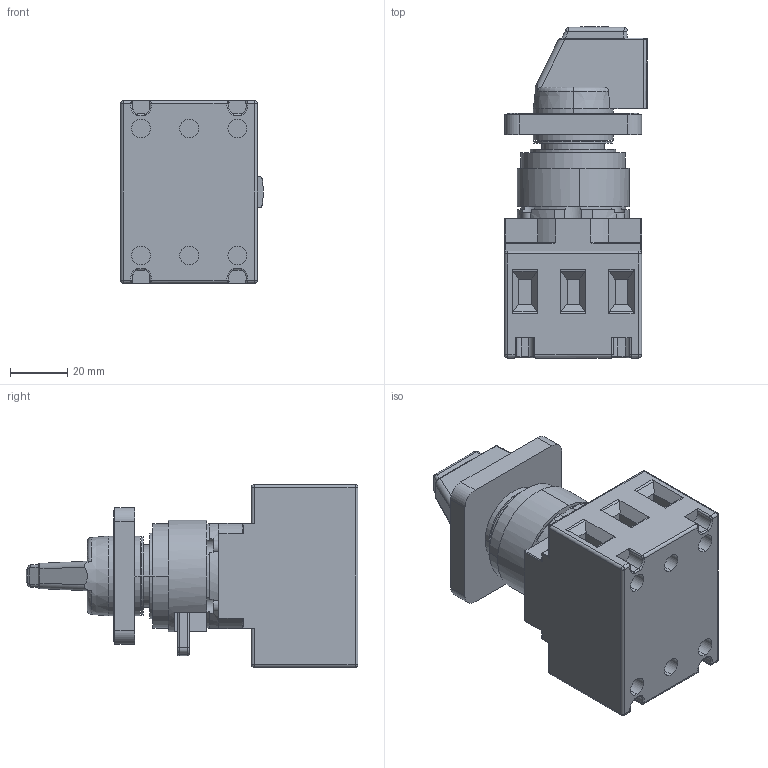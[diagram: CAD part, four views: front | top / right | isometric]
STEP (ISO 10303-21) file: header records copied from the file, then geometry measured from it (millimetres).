
FILE_DESCRIPTION (( 'STEP AP203' ), '1' );
FILE_NAME ('LTS20_25_32_40 ZH1 A3.STEP', '2014-07-17T09:00:54', ( 'edv' ), ( '' ), 'SwSTEP 2.0', 'SolidWorks 2014', '' );
FILE_SCHEMA (( 'CONFIG_CONTROL_DESIGN' ));
Length unit declared in the file: millimetre
Products named in the file (8): Achse LTSZ; SV1_48x48; F黨rungsh黮se vormontiert; LTS20_25_32_40 ZH1 A3; Riegel; Zwischenring; Schalterkörper LTS20_40 E; Kuppelstück
Assembly tree (7 placements, depth 2):
  LTS20_25_32_40 ZH1 A3
    Schalterkörper LTS20_40 E
    Zwischenring
    Achse LTSZ
    Kuppelstück
    Riegel
    F黨rungsh黮se vormontiert
    SV1_48x48
Bounding box: 49.97 x 116.4 x 64 mm (x, y, z)
Volume: 182190.4 mm3; surface area: 45547.4 mm2
Topology: 7 solids, 7 shells, 542 faces, 1337 edges, 841 vertices
Faces by surface type: plane 224, cylinder 216, bspline 58, torus 28, sphere 13, cone 3
Entity records: 19674 total; most frequent: CARTESIAN_POINT 6257, ORIENTED_EDGE 2644, DIRECTION 2591, EDGE_CURVE 1322, AXIS2_PLACEMENT_3D 949, VERTEX_POINT 841, LINE 693, VECTOR 693
